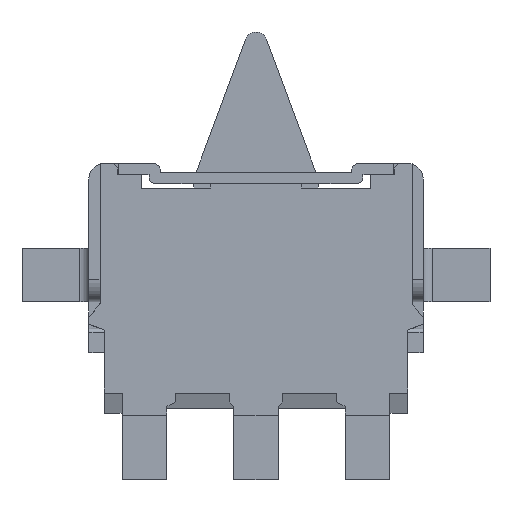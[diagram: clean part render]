
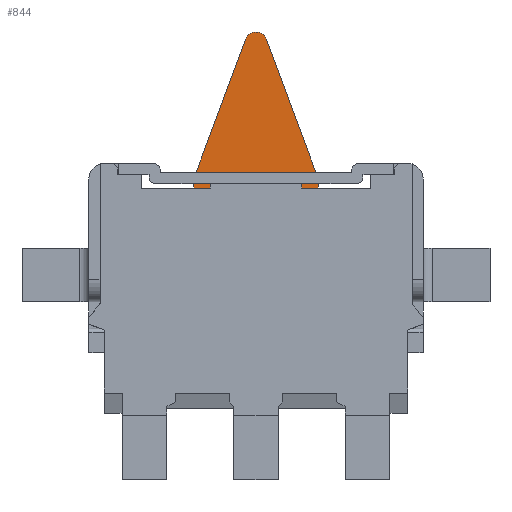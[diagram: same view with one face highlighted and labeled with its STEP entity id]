
A CAD part, front view. The second image highlights one B-rep face of the part: STEP entity #844.
In plain terms, the highlighted planar face has unit normal (0, -1, 0).
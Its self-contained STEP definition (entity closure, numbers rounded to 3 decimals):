
#505 = VERTEX_POINT ( 'NONE', #6476 ) ;
#521 = VERTEX_POINT ( 'NONE', #6490 ) ;
#522 = VERTEX_POINT ( 'NONE', #6491 ) ;
#523 = VERTEX_POINT ( 'NONE', #6492 ) ;
#524 = VERTEX_POINT ( 'NONE', #6493 ) ;
#525 = VERTEX_POINT ( 'NONE', #6494 ) ;
#844 = ADVANCED_FACE ( 'NONE', ( #7359 ), #6684, .T. ) ;
#1041 = EDGE_CURVE ( 'NONE', #505, #3966, #1483, .T. ) ;
#1051 = EDGE_CURVE ( 'NONE', #523, #2218, #1502, .T. ) ;
#1052 = EDGE_CURVE ( 'NONE', #2217, #522, #1504, .T. ) ;
#1053 = EDGE_CURVE ( 'NONE', #522, #505, #1506, .T. ) ;
#1054 = EDGE_CURVE ( 'NONE', #2251, #521, #1508, .T. ) ;
#1055 = EDGE_CURVE ( 'NONE', #521, #524, #1510, .T. ) ;
#1056 = EDGE_CURVE ( 'NONE', #524, #525, #1512, .T. ) ;
#1057 = EDGE_CURVE ( 'NONE', #525, #523, #1514, .T. ) ;
#1196 = AXIS2_PLACEMENT_3D ( 'NONE', #6677, #6686, #6687 ) ;
#1483 = LINE ( 'NONE', #6046, #1486 ) ;
#1486 = VECTOR ( 'NONE', #6050, 1000. ) ;
#1502 = LINE ( 'NONE', #6088, #1505 ) ;
#1504 = LINE ( 'NONE', #6092, #1507 ) ;
#1505 = VECTOR ( 'NONE', #6090, 1000. ) ;
#1506 = LINE ( 'NONE', #6096, #1509 ) ;
#1507 = VECTOR ( 'NONE', #6094, 1000. ) ;
#1508 = LINE ( 'NONE', #6100, #1511 ) ;
#1509 = VECTOR ( 'NONE', #6098, 1000. ) ;
#1510 = LINE ( 'NONE', #6104, #1513 ) ;
#1511 = VECTOR ( 'NONE', #6102, 1000. ) ;
#1512 = CIRCLE ( 'NONE', #2049, 0.25 ) ;
#1513 = VECTOR ( 'NONE', #6107, 1000. ) ;
#1514 = LINE ( 'NONE', #6079, #1516 ) ;
#1516 = VECTOR ( 'NONE', #6075, 1000. ) ;
#2049 = AXIS2_PLACEMENT_3D ( 'NONE', #6113, #6114, #6116 ) ;
#2217 = VERTEX_POINT ( 'NONE', #6214 ) ;
#2218 = VERTEX_POINT ( 'NONE', #6215 ) ;
#2251 = VERTEX_POINT ( 'NONE', #6248 ) ;
#2705 = EDGE_LOOP ( 'NONE', ( #3148, #3149, #3150, #3151, #3152, #3153, #3154, #3155, #3156, #3157 ) ) ;
#3148 = ORIENTED_EDGE ( 'NONE', *, *, #1051, .T. ) ;
#3149 = ORIENTED_EDGE ( 'NONE', *, *, #8411, .T. ) ;
#3150 = ORIENTED_EDGE ( 'NONE', *, *, #1052, .T. ) ;
#3151 = ORIENTED_EDGE ( 'NONE', *, *, #1053, .T. ) ;
#3152 = ORIENTED_EDGE ( 'NONE', *, *, #1041, .T. ) ;
#3153 = ORIENTED_EDGE ( 'NONE', *, *, #8424, .T. ) ;
#3154 = ORIENTED_EDGE ( 'NONE', *, *, #1054, .T. ) ;
#3155 = ORIENTED_EDGE ( 'NONE', *, *, #1055, .T. ) ;
#3156 = ORIENTED_EDGE ( 'NONE', *, *, #1056, .T. ) ;
#3157 = ORIENTED_EDGE ( 'NONE', *, *, #1057, .T. ) ;
#3966 = VERTEX_POINT ( 'NONE', #4469 ) ;
#4469 = CARTESIAN_POINT ( 'NONE',  ( 0.726, -0.5, 5.045 ) ) ;
#6046 = CARTESIAN_POINT ( 'NONE',  ( 0.726, -0.5, 8.295 ) ) ;
#6047 = CARTESIAN_POINT ( 'NONE',  ( 0.001, -0.5, 5.045 ) ) ;
#6050 = DIRECTION ( 'NONE',  ( 0., 0., -1. ) ) ;
#6057 = CARTESIAN_POINT ( 'NONE',  ( 0.001, -0.5, 5.045 ) ) ;
#6059 = DIRECTION ( 'NONE',  ( 1., 0., 0. ) ) ;
#6075 = DIRECTION ( 'NONE',  ( -0.348, 0., -0.937 ) ) ;
#6079 = CARTESIAN_POINT ( 'NONE',  ( -0.233, -0.5, 8.383 ) ) ;
#6088 = CARTESIAN_POINT ( 'NONE',  ( -1.399, -0.5, 5.245 ) ) ;
#6090 = DIRECTION ( 'NONE',  ( 0., 0., -1. ) ) ;
#6092 = CARTESIAN_POINT ( 'NONE',  ( -0.724, -0.5, 8.295 ) ) ;
#6094 = DIRECTION ( 'NONE',  ( 0., 0., 1. ) ) ;
#6096 = CARTESIAN_POINT ( 'NONE',  ( 0.001, -0.5, 5.245 ) ) ;
#6098 = DIRECTION ( 'NONE',  ( 1., 0., 0. ) ) ;
#6100 = CARTESIAN_POINT ( 'NONE',  ( 1.401, -0.5, 5.145 ) ) ;
#6102 = DIRECTION ( 'NONE',  ( 0., 0., 1. ) ) ;
#6104 = CARTESIAN_POINT ( 'NONE',  ( 1.401, -0.5, 5.245 ) ) ;
#6107 = DIRECTION ( 'NONE',  ( -0.348, 0., 0.937 ) ) ;
#6109 = DIRECTION ( 'NONE',  ( 1., 0., 0. ) ) ;
#6113 = CARTESIAN_POINT ( 'NONE',  ( 0.001, -0.5, 8.295 ) ) ;
#6114 = DIRECTION ( 'NONE',  ( 0., -1., 0. ) ) ;
#6116 = DIRECTION ( 'NONE',  ( 0., 0., -1. ) ) ;
#6214 = CARTESIAN_POINT ( 'NONE',  ( -0.724, -0.5, 5.045 ) ) ;
#6215 = CARTESIAN_POINT ( 'NONE',  ( -1.399, -0.5, 5.045 ) ) ;
#6248 = CARTESIAN_POINT ( 'NONE',  ( 1.401, -0.5, 5.045 ) ) ;
#6476 = CARTESIAN_POINT ( 'NONE',  ( 0.726, -0.5, 5.245 ) ) ;
#6490 = CARTESIAN_POINT ( 'NONE',  ( 1.401, -0.5, 5.245 ) ) ;
#6491 = CARTESIAN_POINT ( 'NONE',  ( -0.724, -0.5, 5.245 ) ) ;
#6492 = CARTESIAN_POINT ( 'NONE',  ( -1.399, -0.5, 5.245 ) ) ;
#6493 = CARTESIAN_POINT ( 'NONE',  ( 0.235, -0.5, 8.383 ) ) ;
#6494 = CARTESIAN_POINT ( 'NONE',  ( -0.233, -0.5, 8.383 ) ) ;
#6677 = CARTESIAN_POINT ( 'NONE',  ( 0.001, -0.5, 8.295 ) ) ;
#6684 = PLANE ( 'NONE',  #1196 ) ;
#6686 = DIRECTION ( 'NONE',  ( 0., -1., 0. ) ) ;
#6687 = DIRECTION ( 'NONE',  ( 0., 0., -1. ) ) ;
#7359 = FACE_OUTER_BOUND ( 'NONE', #2705, .T. ) ;
#8295 = LINE ( 'NONE', #6057, #8298 ) ;
#8298 = VECTOR ( 'NONE', #6059, 1000. ) ;
#8301 = LINE ( 'NONE', #6047, #8323 ) ;
#8323 = VECTOR ( 'NONE', #6109, 1000. ) ;
#8411 = EDGE_CURVE ( 'NONE', #2218, #2217, #8295, .T. ) ;
#8424 = EDGE_CURVE ( 'NONE', #3966, #2251, #8301, .T. ) ;
